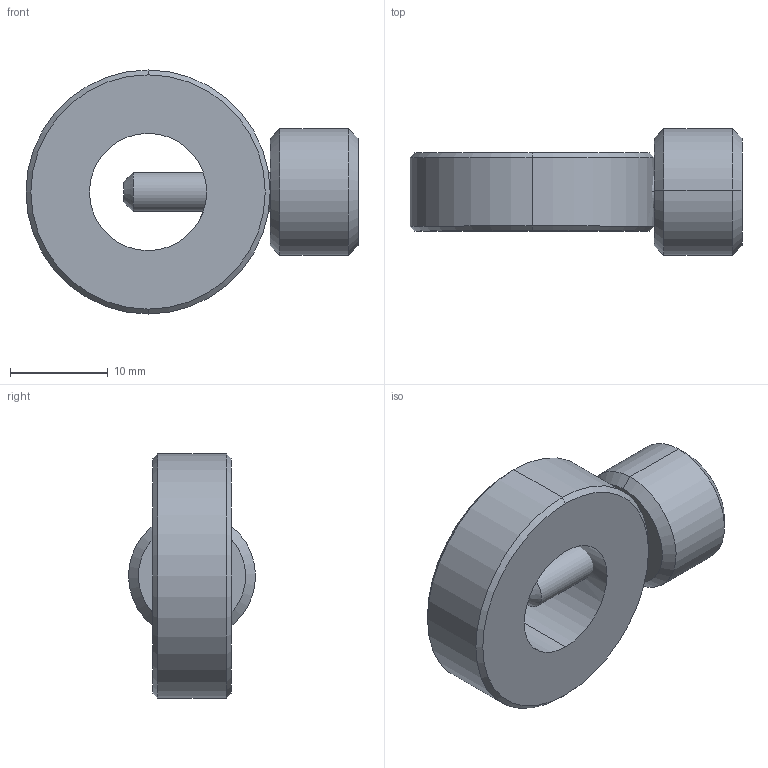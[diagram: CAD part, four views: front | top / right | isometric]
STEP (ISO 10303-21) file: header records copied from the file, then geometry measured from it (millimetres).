
FILE_DESCRIPTION (( 'STEP AP203' ), '1' );
FILE_NAME ('7MPL1支撑杆定位圈.STEP', '2020-06-05T08:59:44', ( '' ), ( '' ), 'SwSTEP 2.0', 'SolidWorks 2018', '' );
FILE_SCHEMA (( 'CONFIG_CONTROL_DESIGN' ));
Length unit declared in the file: millimetre
Products named in the file (1): 7MPL1支撑杆定位圈
Bounding box: 34 x 12.99 x 25 mm (x, y, z)
Volume: 4286.1 mm3; surface area: 2452 mm2
Topology: 2 solids, 2 shells, 25 faces, 50 edges, 30 vertices
Faces by surface type: cone 10, cylinder 10, plane 5
Entity records: 833 total; most frequent: CARTESIAN_POINT 214, DIRECTION 124, ORIENTED_EDGE 100, AXIS2_PLACEMENT_3D 52, EDGE_CURVE 50, EDGE_LOOP 30, VERTEX_POINT 30, CIRCLE 26
